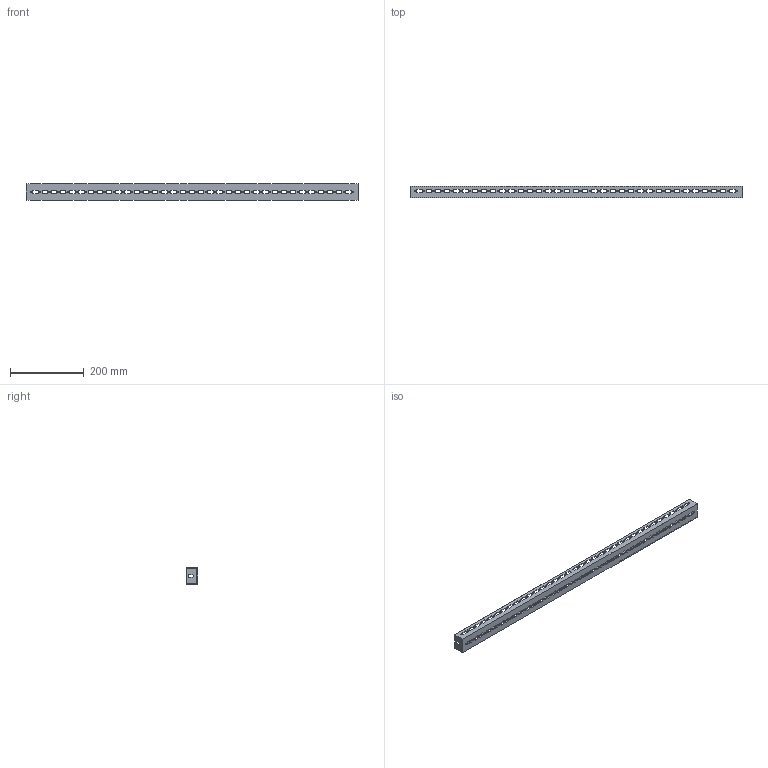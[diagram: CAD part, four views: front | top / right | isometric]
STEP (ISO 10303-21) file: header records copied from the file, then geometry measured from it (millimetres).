
FILE_DESCRIPTION((''),'2;1');
FILE_NAME('SCKA07','2025-02-27T15:07:43',('dougp'),('SAGINAW CONTROL & ENGINEERING'),'CREO PARAMETRIC BY PTC INC, 2021284','CREO PARAMETRIC BY PTC INC, 2021284','');
FILE_SCHEMA(('AUTOMOTIVE_DESIGN { 1 0 10303 214 1 1 1 1 }'));
Length unit declared in the file: inch
Products named in the file (1): SCKA07
Bounding box: 902 x 30 x 45 mm (x, y, z)
Volume: 155088.6 mm3; surface area: 171931.1 mm2
Topology: 1 solids, 1 shells, 651 faces, 1944 edges, 1296 vertices
Faces by surface type: plane 435, cylinder 216
Entity records: 22800 total; most frequent: CARTESIAN_POINT 3893, ORIENTED_EDGE 3888, DIRECTION 3678, EDGE_CURVE 1944, VECTOR 1512, LINE 1512, VERTEX_POINT 1296, AXIS2_PLACEMENT_3D 1083
